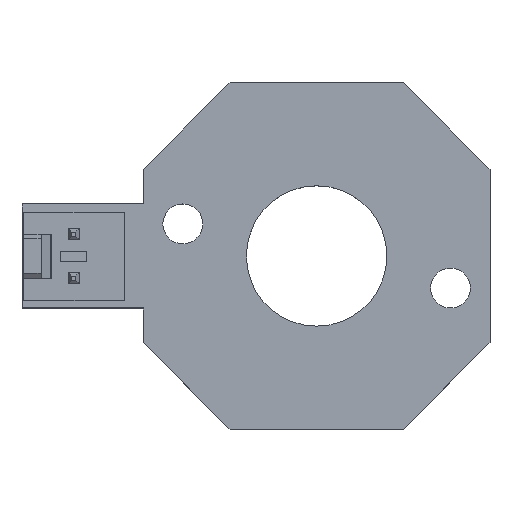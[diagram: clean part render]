
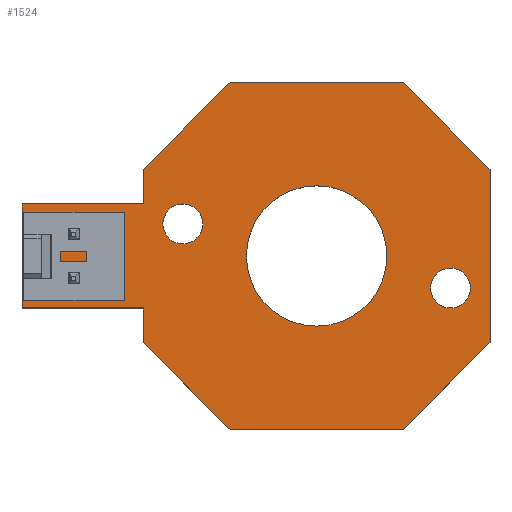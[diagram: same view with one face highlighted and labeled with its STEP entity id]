
A CAD part, top view. The second image highlights one B-rep face of the part: STEP entity #1524.
In plain terms, the highlighted planar face has unit normal (0, 0, 1).
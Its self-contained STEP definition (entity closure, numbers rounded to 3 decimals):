
#33=FACE_BOUND('',#229,.T.);
#34=FACE_BOUND('',#230,.T.);
#35=FACE_BOUND('',#231,.T.);
#36=FACE_BOUND('',#232,.T.);
#37=FACE_BOUND('',#233,.T.);
#61=PLANE('',#1657);
#144=FACE_OUTER_BOUND('',#228,.T.);
#228=EDGE_LOOP('',(#1139,#1140,#1141,#1142,#1143,#1144,#1145,#1146,#1147,
#1148,#1149,#1150));
#229=EDGE_LOOP('',(#1151));
#230=EDGE_LOOP('',(#1152));
#231=EDGE_LOOP('',(#1153));
#232=EDGE_LOOP('',(#1154));
#233=EDGE_LOOP('',(#1155));
#318=LINE('',#2182,#518);
#321=LINE('',#2188,#521);
#324=LINE('',#2194,#524);
#327=LINE('',#2200,#527);
#330=LINE('',#2206,#530);
#333=LINE('',#2212,#533);
#336=LINE('',#2218,#536);
#339=LINE('',#2224,#539);
#342=LINE('',#2230,#542);
#345=LINE('',#2236,#545);
#348=LINE('',#2242,#548);
#351=LINE('',#2246,#551);
#518=VECTOR('',#1777,10.);
#521=VECTOR('',#1782,10.);
#524=VECTOR('',#1787,10.);
#527=VECTOR('',#1792,10.);
#530=VECTOR('',#1797,10.);
#533=VECTOR('',#1802,10.);
#536=VECTOR('',#1807,10.);
#539=VECTOR('',#1812,10.);
#542=VECTOR('',#1817,10.);
#545=VECTOR('',#1822,10.);
#548=VECTOR('',#1827,10.);
#551=VECTOR('',#1832,10.);
#712=CIRCLE('',#1632,1.15);
#714=CIRCLE('',#1635,0.555);
#716=CIRCLE('',#1638,0.555);
#718=CIRCLE('',#1641,1.15);
#719=CIRCLE('',#1643,4.05);
#724=VERTEX_POINT('',#2148);
#726=VERTEX_POINT('',#2154);
#728=VERTEX_POINT('',#2160);
#730=VERTEX_POINT('',#2166);
#731=VERTEX_POINT('',#2170);
#735=VERTEX_POINT('',#2179);
#736=VERTEX_POINT('',#2181);
#738=VERTEX_POINT('',#2187);
#740=VERTEX_POINT('',#2193);
#742=VERTEX_POINT('',#2199);
#744=VERTEX_POINT('',#2205);
#746=VERTEX_POINT('',#2211);
#748=VERTEX_POINT('',#2217);
#750=VERTEX_POINT('',#2223);
#752=VERTEX_POINT('',#2229);
#754=VERTEX_POINT('',#2235);
#756=VERTEX_POINT('',#2241);
#861=EDGE_CURVE('',#724,#724,#712,.T.);
#864=EDGE_CURVE('',#726,#726,#714,.T.);
#867=EDGE_CURVE('',#728,#728,#716,.T.);
#870=EDGE_CURVE('',#730,#730,#718,.T.);
#871=EDGE_CURVE('',#731,#731,#719,.T.);
#876=EDGE_CURVE('',#736,#735,#318,.T.);
#879=EDGE_CURVE('',#738,#736,#321,.T.);
#882=EDGE_CURVE('',#740,#738,#324,.T.);
#885=EDGE_CURVE('',#742,#740,#327,.T.);
#888=EDGE_CURVE('',#744,#742,#330,.T.);
#891=EDGE_CURVE('',#746,#744,#333,.T.);
#894=EDGE_CURVE('',#748,#746,#336,.T.);
#897=EDGE_CURVE('',#750,#748,#339,.T.);
#900=EDGE_CURVE('',#752,#750,#342,.T.);
#903=EDGE_CURVE('',#754,#752,#345,.T.);
#906=EDGE_CURVE('',#756,#754,#348,.T.);
#909=EDGE_CURVE('',#735,#756,#351,.T.);
#1139=ORIENTED_EDGE('',*,*,#909,.T.);
#1140=ORIENTED_EDGE('',*,*,#906,.T.);
#1141=ORIENTED_EDGE('',*,*,#903,.T.);
#1142=ORIENTED_EDGE('',*,*,#900,.T.);
#1143=ORIENTED_EDGE('',*,*,#897,.T.);
#1144=ORIENTED_EDGE('',*,*,#894,.T.);
#1145=ORIENTED_EDGE('',*,*,#891,.T.);
#1146=ORIENTED_EDGE('',*,*,#888,.T.);
#1147=ORIENTED_EDGE('',*,*,#885,.T.);
#1148=ORIENTED_EDGE('',*,*,#882,.T.);
#1149=ORIENTED_EDGE('',*,*,#879,.T.);
#1150=ORIENTED_EDGE('',*,*,#876,.T.);
#1151=ORIENTED_EDGE('',*,*,#861,.T.);
#1152=ORIENTED_EDGE('',*,*,#864,.T.);
#1153=ORIENTED_EDGE('',*,*,#867,.T.);
#1154=ORIENTED_EDGE('',*,*,#870,.T.);
#1155=ORIENTED_EDGE('',*,*,#871,.T.);
#1524=ADVANCED_FACE('',(#144,#33,#34,#35,#36,#37),#61,.T.);
#1632=AXIS2_PLACEMENT_3D('',#2150,#1743,#1744);
#1635=AXIS2_PLACEMENT_3D('',#2156,#1750,#1751);
#1638=AXIS2_PLACEMENT_3D('',#2162,#1757,#1758);
#1641=AXIS2_PLACEMENT_3D('',#2168,#1764,#1765);
#1643=AXIS2_PLACEMENT_3D('',#2171,#1768,#1769);
#1657=AXIS2_PLACEMENT_3D('',#2247,#1833,#1834);
#1743=DIRECTION('center_axis',(0.,0.,-1.));
#1744=DIRECTION('ref_axis',(1.,0.,0.));
#1750=DIRECTION('center_axis',(0.,0.,-1.));
#1751=DIRECTION('ref_axis',(1.,0.,0.));
#1757=DIRECTION('center_axis',(0.,0.,-1.));
#1758=DIRECTION('ref_axis',(1.,0.,0.));
#1764=DIRECTION('center_axis',(0.,0.,-1.));
#1765=DIRECTION('ref_axis',(1.,0.,0.));
#1768=DIRECTION('center_axis',(0.,0.,-1.));
#1769=DIRECTION('ref_axis',(1.,0.,0.));
#1777=DIRECTION('',(0.,-1.,0.));
#1782=DIRECTION('',(-1.,0.,0.));
#1787=DIRECTION('',(0.,-1.,0.));
#1792=DIRECTION('',(-0.707,-0.707,0.));
#1797=DIRECTION('',(-1.,0.,0.));
#1802=DIRECTION('',(-0.707,0.707,0.));
#1807=DIRECTION('',(0.,1.,0.));
#1812=DIRECTION('',(0.707,0.707,0.));
#1817=DIRECTION('',(1.,0.,0.));
#1822=DIRECTION('',(0.707,-0.707,0.));
#1827=DIRECTION('',(0.,-1.,0.));
#1832=DIRECTION('',(1.,0.,0.));
#1833=DIRECTION('center_axis',(0.,0.,1.));
#1834=DIRECTION('ref_axis',(1.,0.,0.));
#2148=CARTESIAN_POINT('',(8.125,11.85,1.57));
#2150=CARTESIAN_POINT('Origin',(9.275,11.85,1.57));
#2154=CARTESIAN_POINT('',(2.445,11.27,1.57));
#2156=CARTESIAN_POINT('Origin',(3.,11.27,1.57));
#2160=CARTESIAN_POINT('',(2.445,8.73,1.57));
#2162=CARTESIAN_POINT('Origin',(3.,8.73,1.57));
#2166=CARTESIAN_POINT('',(23.575,8.15,1.57));
#2168=CARTESIAN_POINT('Origin',(24.725,8.15,1.57));
#2170=CARTESIAN_POINT('',(12.95,10.,1.57));
#2171=CARTESIAN_POINT('Origin',(17.,10.,1.57));
#2179=CARTESIAN_POINT('',(0.,7.,1.57));
#2181=CARTESIAN_POINT('',(0.,13.,1.57));
#2182=CARTESIAN_POINT('',(0.,13.,1.57));
#2187=CARTESIAN_POINT('',(7.,13.,1.57));
#2188=CARTESIAN_POINT('',(7.,13.,1.57));
#2193=CARTESIAN_POINT('',(7.,15.,1.57));
#2194=CARTESIAN_POINT('',(7.,15.,1.57));
#2199=CARTESIAN_POINT('',(12.,20.,1.57));
#2200=CARTESIAN_POINT('',(12.,20.,1.57));
#2205=CARTESIAN_POINT('',(22.,20.,1.57));
#2206=CARTESIAN_POINT('',(22.,20.,1.57));
#2211=CARTESIAN_POINT('',(27.,15.,1.57));
#2212=CARTESIAN_POINT('',(27.,15.,1.57));
#2217=CARTESIAN_POINT('',(27.,5.,1.57));
#2218=CARTESIAN_POINT('',(27.,5.,1.57));
#2223=CARTESIAN_POINT('',(22.,0.,1.57));
#2224=CARTESIAN_POINT('',(22.,0.,1.57));
#2229=CARTESIAN_POINT('',(12.,0.,1.57));
#2230=CARTESIAN_POINT('',(12.,0.,1.57));
#2235=CARTESIAN_POINT('',(7.,5.,1.57));
#2236=CARTESIAN_POINT('',(7.,5.,1.57));
#2241=CARTESIAN_POINT('',(7.,7.,1.57));
#2242=CARTESIAN_POINT('',(7.,7.,1.57));
#2246=CARTESIAN_POINT('',(0.,7.,1.57));
#2247=CARTESIAN_POINT('Origin',(13.5,10.,1.57));
